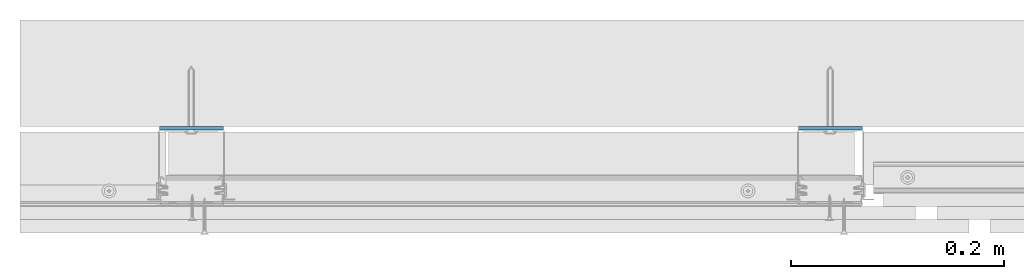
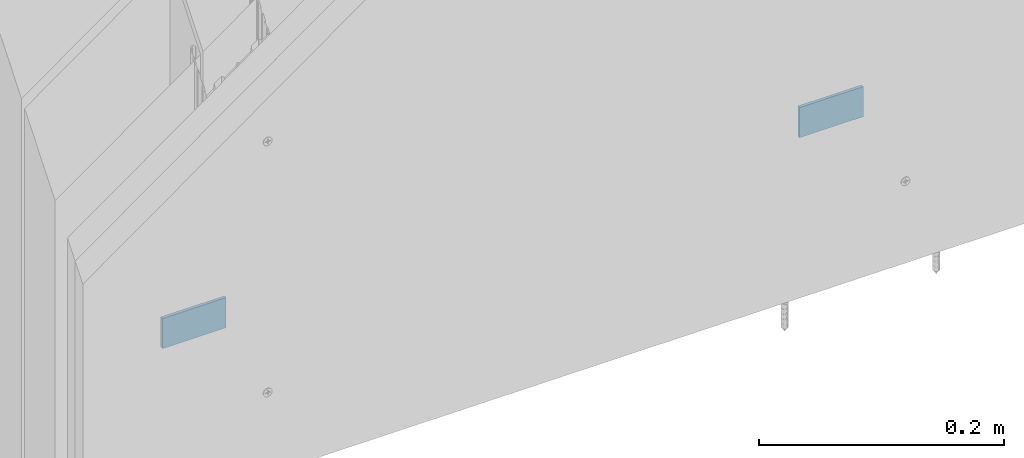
# One storey, part 14 of 48: 2 walls.
"""IFC2X3 building model written with IfcOpenShell, lengths in millimetres."""

from ifc_helpers import new_model, entity, si_unit, converted_unit, direction, frame, origin, origin_with_axes, place, context, project, spatial, faceted_brep, element, save


model = new_model("IFC2X3")

# Units and contexts
model_context = context("Model", 3, precision=1e-05, world=origin(), true_north=direction((0.0, 1.0, 0.0)))
ifc_project = project(units=[si_unit("LENGTHUNIT", "METRE", prefix="MILLI"), si_unit("AREAUNIT", "SQUARE_METRE"), si_unit("VOLUMEUNIT", "CUBIC_METRE"), converted_unit("PLANEANGLEUNIT", "DEGREE", entity("IfcPlaneAngleMeasure", 0.01745), si_unit("PLANEANGLEUNIT", "RADIAN"), dimensions=[0, 0, 0, 0, 0, 0, 0]), si_unit("SOLIDANGLEUNIT", "STERADIAN"), si_unit("MASSUNIT", "GRAM"), si_unit("TIMEUNIT", "SECOND"), si_unit("THERMODYNAMICTEMPERATUREUNIT", "DEGREE_CELSIUS"), si_unit("LUMINOUSINTENSITYUNIT", "LUMEN")], contexts=[model_context])

# Site, building, storey
site_placement = place(None, origin_with_axes())
site = spatial("IfcSite", under=ifc_project, at=site_placement, Name="Default Site", CompositionType="ELEMENT")
building_placement = place(site_placement, origin_with_axes())
building = spatial("IfcBuilding", under=site, at=building_placement, Name="Default Building", CompositionType="ELEMENT")
storey_placement = place(building_placement, origin_with_axes())
storey = spatial("IfcBuildingStorey", under=building, at=storey_placement, Name="Default Building Storey", CompositionType="ELEMENT", Elevation=0.0)

# Walls
for number, where, z_axis, x_axis, name in (
    (1, (2255.939502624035, 2019.140922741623, 121.1016459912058), (0.0, 0.0, 1.0), (1.0, 0.0, 0.0), "Taśma uszczelniająca piankowa RIGIPS szer.30mm"),
    (2, (2855.939502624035, 2019.140922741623, 121.1016459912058), (0.0, 0.0, 1.0), (1.0, 0.0, 0.0), "Taśma uszczelniająca piankowa RIGIPS szer.30mm"),
):
    element("IfcWall", number, at=place(storey_placement, frame(where, z_axis=z_axis, x_axis=x_axis)), inside=storey, Name=name, context=model_context, shape_type="Brep", body=[
        faceted_brep([(59.99999999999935, 0.0, 4.511946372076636e-12), (0.0, 0.0, 0.0), (1.082867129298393e-12, -2.237925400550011e-11, -30.00000000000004), (60.00000000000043, -2.237925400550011e-11, -29.99999999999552), (0.0, 3.00000000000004, 0.0), (1.082867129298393e-12, 2.999999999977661, -30.00000000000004), (60.00000000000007, 3.00000000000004, 0.0), (60.00000000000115, 2.999999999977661, -30.00000000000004)], [[[0, 1, 2, 3]], [[1, 4, 5, 2]], [[4, 6, 7, 5]], [[6, 0, 3, 7]], [[7, 3, 2, 5]], [[0, 6, 4, 1]]]),
    ])

save(model, "model.ifc")
